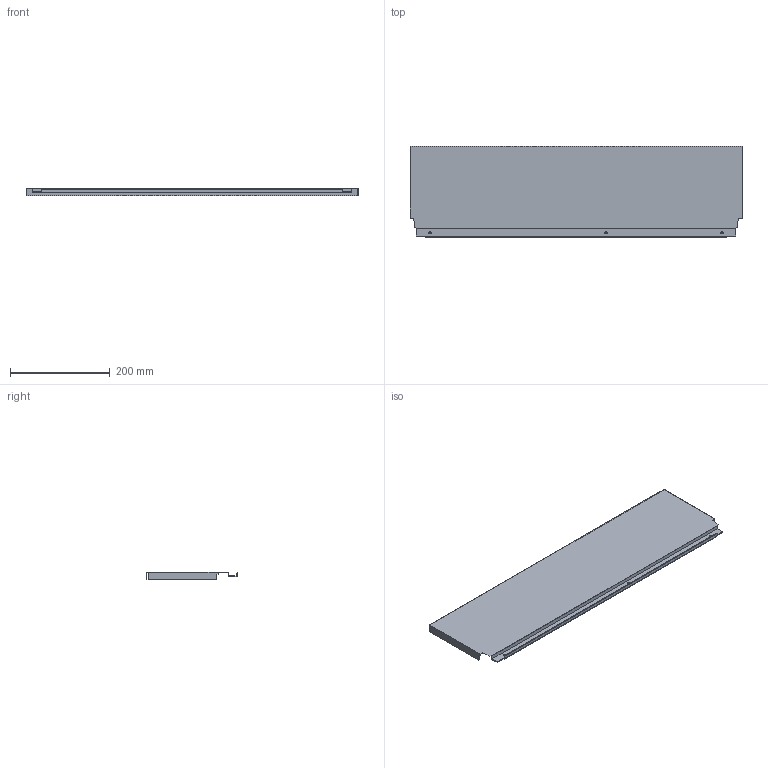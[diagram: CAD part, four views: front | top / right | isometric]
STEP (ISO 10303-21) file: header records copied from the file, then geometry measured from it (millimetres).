
FILE_DESCRIPTION (( 'STEP AP214' ), '1' );
FILE_NAME ('_DWD_XP Stahlrückwand_H182_KAB750_S17.step', '2010-07-08T12:57:46', ( 'grass' ), ( '' ), 'SwSTEP 2.0', 'SolidWorks 2010', '' );
FILE_SCHEMA (( 'AUTOMOTIVE_DESIGN' ));
Length unit declared in the file: millimetre
Products named in the file (1): _DWD_XP Stahlrückwand_H182_KAB750_S17
Bounding box: 665 x 182.49 x 16 mm (x, y, z)
Volume: 125034.6 mm3; surface area: 289532.6 mm2
Topology: 1 solids, 1 shells, 46 faces, 132 edges, 88 vertices
Faces by surface type: plane 40, cylinder 6
Entity records: 1534 total; most frequent: CARTESIAN_POINT 267, ORIENTED_EDGE 264, DIRECTION 238, EDGE_CURVE 132, LINE 120, VECTOR 120, VERTEX_POINT 88, AXIS2_PLACEMENT_3D 59
